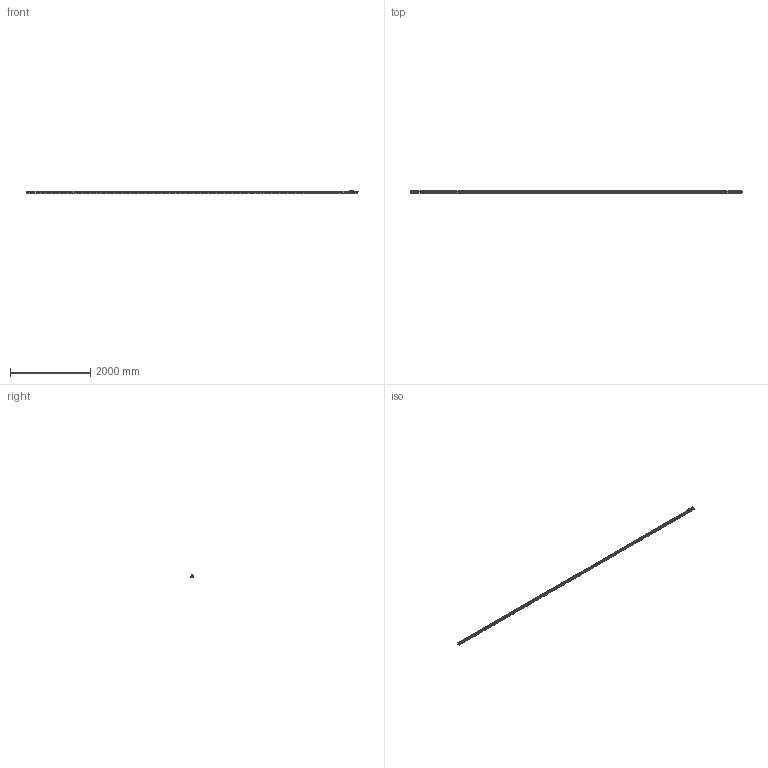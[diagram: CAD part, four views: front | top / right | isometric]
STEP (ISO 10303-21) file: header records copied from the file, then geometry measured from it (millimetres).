
FILE_DESCRIPTION(('Creo Elements/Direct Modeling STEP Export'),'2;1');
FILE_NAME('REGLA_L3_8040_M_T.stp','2021-02-04T11:50:39',(''),(''),'Creo Elements/Direct Modeling STEP processor for AP214 (Solid Model)','Creo Elements/Direct Modeling 19.0G 27-Nov-2017 (C) Parametric Technology GmbH','');
FILE_SCHEMA(('AUTOMOTIVE_DESIGN { 1 0 10303 214 1 1 1 1 }'));
Products named in the file (3): PERFIL_L3_8040; CABEZA_L3_T_M6; MOD_L3_8040_M_T
Assembly tree (2 placements, depth 2):
  MOD_L3_8040_M_T
    CABEZA_L3_T_M6
    PERFIL_L3_8040
Bounding box: 8290 x 50 x 85 mm (x, y, z)
Volume: 21479655.6 mm3; surface area: 2405825.3 mm2
Topology: 2 solids, 2 shells, 2492 faces, 7136 edges, 4749 vertices
Faces by surface type: plane 1252, cylinder 860, cone 265, bspline 59, torus 50, extrusion 6
Entity records: 97359 total; most frequent: CARTESIAN_POINT 26950, ORIENTED_EDGE 14256, DIRECTION 12713, EDGE_CURVE 7128, VERTEX_POINT 4749, VECTOR 4501, LINE 4495, AXIS2_PLACEMENT_3D 4106
